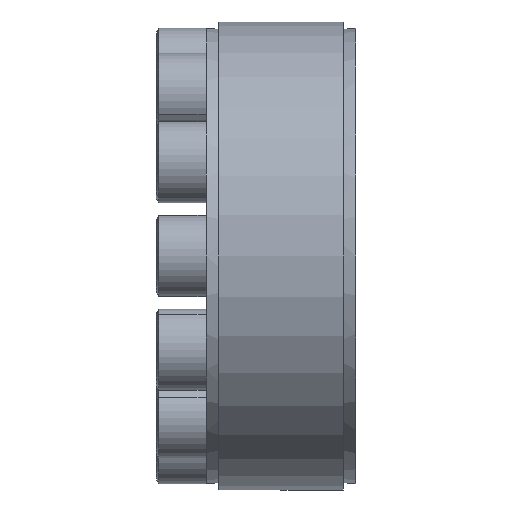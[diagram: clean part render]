
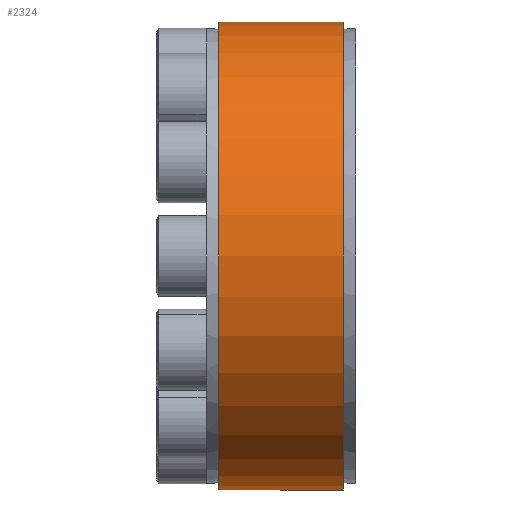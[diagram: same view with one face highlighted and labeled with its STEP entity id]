
A CAD part, front view. The second image highlights one B-rep face of the part: STEP entity #2324.
In plain terms, the highlighted cylindrical face has radius 37.5 mm (diameter 75 mm), a partial arc.
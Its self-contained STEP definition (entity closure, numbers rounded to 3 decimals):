
#2238 = VERTEX_POINT ( 'NONE', #6195 ) ;
#2239 = VERTEX_POINT ( 'NONE', #6194 ) ;
#2299 = EDGE_CURVE ( 'NONE', #2239, #2300, #6329, .T. ) ;
#2300 = VERTEX_POINT ( 'NONE', #6325 ) ;
#2303 = VERTEX_POINT ( 'NONE', #6319 ) ;
#2305 = EDGE_CURVE ( 'NONE', #2238, #2303, #6318, .T. ) ;
#2324 = ADVANCED_FACE ( 'NONE', ( #6348 ), #6347, .T. ) ;
#2325 = ORIENTED_EDGE ( 'NONE', *, *, #2299, .F. ) ;
#2326 = ORIENTED_EDGE ( 'NONE', *, *, #2344, .T. ) ;
#2327 = ORIENTED_EDGE ( 'NONE', *, *, #2305, .T. ) ;
#2328 = ORIENTED_EDGE ( 'NONE', *, *, #2329, .F. ) ;
#2329 = EDGE_CURVE ( 'NONE', #2300, #2303, #6346, .T. ) ;
#2344 = EDGE_CURVE ( 'NONE', #2239, #2238, #6384, .T. ) ;
#2347 = EDGE_LOOP ( 'NONE', ( #2325, #2326, #2327, #2328 ) ) ;
#6194 = CARTESIAN_POINT ( 'NONE',  ( 22., 0., -37.5 ) ) ;
#6195 = CARTESIAN_POINT ( 'NONE',  ( 22., 0., 37.5 ) ) ;
#6315 = DIRECTION ( 'NONE',  ( -1., 0., 0. ) ) ;
#6316 = VECTOR ( 'NONE', #6315, 1000. ) ;
#6317 = CARTESIAN_POINT ( 'NONE',  ( 0., 0., 37.5 ) ) ;
#6318 = LINE ( 'NONE', #6317, #6316 ) ;
#6319 = CARTESIAN_POINT ( 'NONE',  ( 2., 0., 37.5 ) ) ;
#6325 = CARTESIAN_POINT ( 'NONE',  ( 2., 0., -37.5 ) ) ;
#6326 = DIRECTION ( 'NONE',  ( -1., 0., 0. ) ) ;
#6327 = VECTOR ( 'NONE', #6326, 1000. ) ;
#6328 = CARTESIAN_POINT ( 'NONE',  ( 0., 0., -37.5 ) ) ;
#6329 = LINE ( 'NONE', #6328, #6327 ) ;
#6338 = DIRECTION ( 'NONE',  ( 0., 0., 1. ) ) ;
#6339 = DIRECTION ( 'NONE',  ( -1., 0., 0. ) ) ;
#6340 = CARTESIAN_POINT ( 'NONE',  ( 2., 0., 0. ) ) ;
#6341 = AXIS2_PLACEMENT_3D ( 'NONE', #6340, #6339, #6338 ) ;
#6342 = DIRECTION ( 'NONE',  ( 0., 0., 1. ) ) ;
#6343 = DIRECTION ( 'NONE',  ( -1., 0., 0. ) ) ;
#6344 = CARTESIAN_POINT ( 'NONE',  ( 0., 0., 0. ) ) ;
#6345 = AXIS2_PLACEMENT_3D ( 'NONE', #6344, #6343, #6342 ) ;
#6346 = CIRCLE ( 'NONE', #6341, 37.5 ) ;
#6347 = CYLINDRICAL_SURFACE ( 'NONE', #6345, 37.5 ) ;
#6348 = FACE_OUTER_BOUND ( 'NONE', #2347, .T. ) ;
#6380 = DIRECTION ( 'NONE',  ( 0., 0., 1. ) ) ;
#6381 = DIRECTION ( 'NONE',  ( -1., 0., 0. ) ) ;
#6382 = CARTESIAN_POINT ( 'NONE',  ( 22., 0., 0. ) ) ;
#6383 = AXIS2_PLACEMENT_3D ( 'NONE', #6382, #6381, #6380 ) ;
#6384 = CIRCLE ( 'NONE', #6383, 37.5 ) ;
